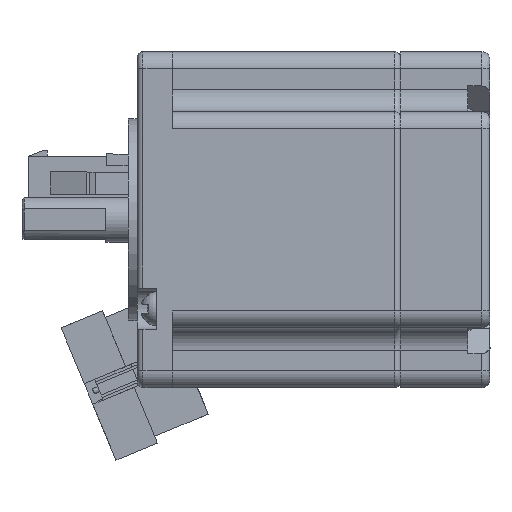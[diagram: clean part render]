
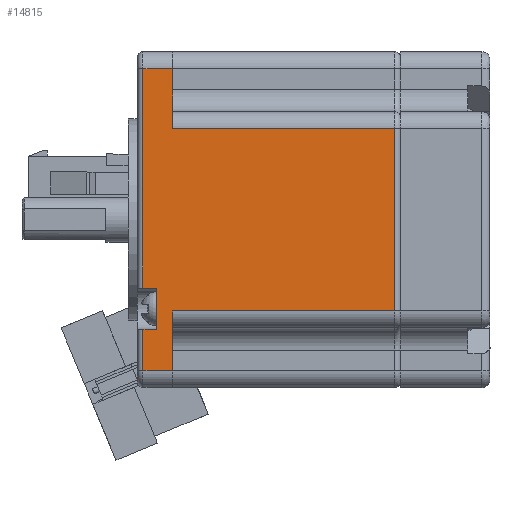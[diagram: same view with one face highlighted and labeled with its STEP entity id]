
A CAD part, front view. The second image highlights one B-rep face of the part: STEP entity #14815.
In plain terms, the highlighted planar face has unit normal (0, -1, 0).
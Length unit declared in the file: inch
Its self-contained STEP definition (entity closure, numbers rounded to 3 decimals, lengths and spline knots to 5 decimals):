
#560=LINE('',#23002,#1960);
#561=LINE('',#23007,#1961);
#563=LINE('',#23011,#1963);
#565=LINE('',#23015,#1965);
#566=LINE('',#23017,#1966);
#571=LINE('',#23037,#1971);
#572=LINE('',#23042,#1972);
#603=LINE('',#23123,#2003);
#618=LINE('',#23168,#2018);
#626=LINE('',#23192,#2026);
#627=LINE('',#23196,#2027);
#628=LINE('',#23197,#2028);
#1960=VECTOR('',#18009,0.29134);
#1961=VECTOR('',#18016,1.54331);
#1963=VECTOR('',#18020,0.09843);
#1965=VECTOR('',#18024,0.29134);
#1966=VECTOR('',#18027,0.09843);
#1971=VECTOR('',#18044,0.42126);
#1972=VECTOR('',#18051,0.20866);
#2003=VECTOR('',#18136,0.20866);
#2018=VECTOR('',#18179,0.42126);
#2026=VECTOR('',#18203,1.56299);
#2027=VECTOR('',#18208,1.56299);
#2028=VECTOR('',#18209,1.28346);
#3279=PLANE('',#15929);
#4179=FACE_OUTER_BOUND('',#5078,.T.);
#5078=EDGE_LOOP('',(#11254,#11255,#11256,#11257,#11258,#11259,#11260,#11261,
#11262,#11263,#11264,#11265));
#6863=VERTEX_POINT('',#22795);
#6883=VERTEX_POINT('',#22879);
#6917=VERTEX_POINT('',#23001);
#6918=VERTEX_POINT('',#23005);
#6919=VERTEX_POINT('',#23009);
#6920=VERTEX_POINT('',#23013);
#6928=VERTEX_POINT('',#23034);
#6929=VERTEX_POINT('',#23036);
#6953=VERTEX_POINT('',#23120);
#6969=VERTEX_POINT('',#23167);
#6977=VERTEX_POINT('',#23191);
#6978=VERTEX_POINT('',#23195);
#8510=EDGE_CURVE('',#6917,#6863,#560,.T.);
#8513=EDGE_CURVE('',#6883,#6918,#561,.T.);
#8515=EDGE_CURVE('',#6918,#6919,#563,.T.);
#8517=EDGE_CURVE('',#6919,#6920,#565,.T.);
#8518=EDGE_CURVE('',#6920,#6917,#566,.T.);
#8527=EDGE_CURVE('',#6929,#6928,#571,.T.);
#8530=EDGE_CURVE('',#6863,#6929,#572,.T.);
#8571=EDGE_CURVE('',#6953,#6883,#603,.T.);
#8593=EDGE_CURVE('',#6969,#6953,#618,.T.);
#8605=EDGE_CURVE('',#6977,#6969,#626,.T.);
#8607=EDGE_CURVE('',#6978,#6928,#627,.T.);
#8608=EDGE_CURVE('',#6977,#6978,#628,.T.);
#11254=ORIENTED_EDGE('',*,*,#8517,.T.);
#11255=ORIENTED_EDGE('',*,*,#8518,.T.);
#11256=ORIENTED_EDGE('',*,*,#8510,.T.);
#11257=ORIENTED_EDGE('',*,*,#8530,.T.);
#11258=ORIENTED_EDGE('',*,*,#8527,.T.);
#11259=ORIENTED_EDGE('',*,*,#8607,.F.);
#11260=ORIENTED_EDGE('',*,*,#8608,.F.);
#11261=ORIENTED_EDGE('',*,*,#8605,.T.);
#11262=ORIENTED_EDGE('',*,*,#8593,.T.);
#11263=ORIENTED_EDGE('',*,*,#8571,.T.);
#11264=ORIENTED_EDGE('',*,*,#8513,.T.);
#11265=ORIENTED_EDGE('',*,*,#8515,.T.);
#14815=ADVANCED_FACE('',(#4179),#3279,.T.);
#15929=AXIS2_PLACEMENT_3D('',#23194,#18206,#18207);
#18009=DIRECTION('',(0.,0.,-1.));
#18016=DIRECTION('',(0.,0.,-1.));
#18020=DIRECTION('',(1.,0.,0.));
#18024=DIRECTION('',(0.,0.,-1.));
#18027=DIRECTION('',(-1.,0.,0.));
#18044=DIRECTION('',(0.,0.,1.));
#18051=DIRECTION('',(1.,0.,0.));
#18136=DIRECTION('',(-1.,0.,0.));
#18179=DIRECTION('',(0.,0.,1.));
#18203=DIRECTION('',(-1.,0.,0.));
#18206=DIRECTION('center_axis',(0.,-1.,0.));
#18207=DIRECTION('ref_axis',(1.,0.,0.));
#18208=DIRECTION('',(-1.,0.,0.));
#18209=DIRECTION('',(0.,0.,-1.));
#22795=CARTESIAN_POINT('',(6.24676,-2.3622,-2.24409));
#22879=CARTESIAN_POINT('',(6.24676,-2.3622,-0.11811));
#23001=CARTESIAN_POINT('',(6.24676,-2.3622,-1.95276));
#23002=CARTESIAN_POINT('',(6.24676,-2.3622,0.));
#23005=CARTESIAN_POINT('',(6.24676,-2.3622,-1.66142));
#23007=CARTESIAN_POINT('',(6.24676,-2.3622,0.));
#23009=CARTESIAN_POINT('',(6.34519,-2.3622,-1.66142));
#23011=CARTESIAN_POINT('',(6.20739,-2.3622,-1.66142));
#23013=CARTESIAN_POINT('',(6.34519,-2.3622,-1.95276));
#23015=CARTESIAN_POINT('',(6.34519,-2.3622,0.));
#23017=CARTESIAN_POINT('',(6.20739,-2.3622,-1.95276));
#23034=CARTESIAN_POINT('',(6.45542,-2.3622,-1.82283));
#23036=CARTESIAN_POINT('',(6.45542,-2.3622,-2.24409));
#23037=CARTESIAN_POINT('',(6.45542,-2.3622,0.));
#23042=CARTESIAN_POINT('',(6.20739,-2.3622,-2.24409));
#23120=CARTESIAN_POINT('',(6.45542,-2.3622,-0.11811));
#23123=CARTESIAN_POINT('',(6.20739,-2.3622,-0.11811));
#23167=CARTESIAN_POINT('',(6.45542,-2.3622,-0.53937));
#23168=CARTESIAN_POINT('',(6.45542,-2.3622,0.));
#23191=CARTESIAN_POINT('',(8.01842,-2.3622,-0.53937));
#23192=CARTESIAN_POINT('',(6.20739,-2.3622,-0.53937));
#23194=CARTESIAN_POINT('Origin',(6.20739,-2.3622,0.));
#23195=CARTESIAN_POINT('',(8.01842,-2.3622,-1.82283));
#23196=CARTESIAN_POINT('',(6.45542,-2.3622,-1.82283));
#23197=CARTESIAN_POINT('',(8.01842,-2.3622,-0.53937));
